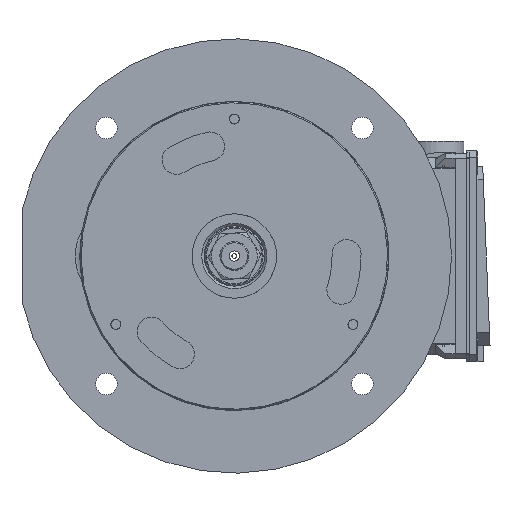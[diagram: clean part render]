
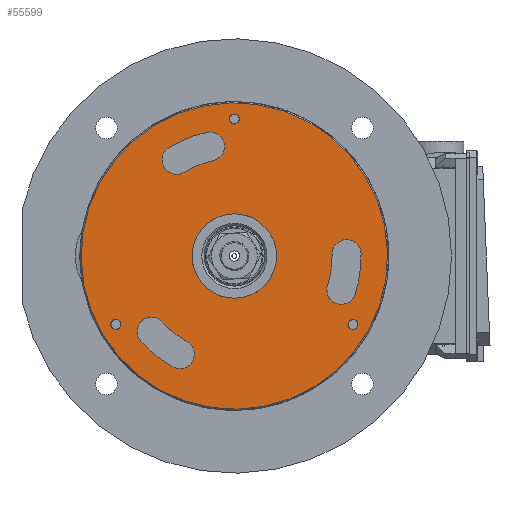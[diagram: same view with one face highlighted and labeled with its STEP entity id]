
A CAD part, front view. The second image highlights one B-rep face of the part: STEP entity #55599.
In plain terms, the highlighted planar face has unit normal (0, -1, 0).
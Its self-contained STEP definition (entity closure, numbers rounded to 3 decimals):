
#2052=PLANE('',#59845);
#3854=FACE_BOUND('',#8932,.T.);
#3855=FACE_BOUND('',#8933,.T.);
#3856=FACE_BOUND('',#8934,.T.);
#3857=FACE_BOUND('',#8935,.T.);
#3858=FACE_BOUND('',#8936,.T.);
#3859=FACE_BOUND('',#8937,.T.);
#3860=FACE_BOUND('',#8938,.T.);
#5712=FACE_OUTER_BOUND('',#8931,.T.);
#8931=EDGE_LOOP('',(#44593));
#8932=EDGE_LOOP('',(#44594,#44595,#44596,#44597));
#8933=EDGE_LOOP('',(#44598,#44599,#44600,#44601));
#8934=EDGE_LOOP('',(#44602,#44603,#44604,#44605));
#8935=EDGE_LOOP('',(#44606));
#8936=EDGE_LOOP('',(#44607));
#8937=EDGE_LOOP('',(#44608));
#8938=EDGE_LOOP('',(#44609));
#11367=CIRCLE('',#59785,5.25);
#11368=CIRCLE('',#59787,0.6);
#11369=CIRCLE('',#59789,4.05);
#11370=CIRCLE('',#59791,0.6);
#11375=CIRCLE('',#59798,5.25);
#11376=CIRCLE('',#59800,0.6);
#11377=CIRCLE('',#59802,4.05);
#11378=CIRCLE('',#59804,0.6);
#11383=CIRCLE('',#59811,5.25);
#11384=CIRCLE('',#59813,0.6);
#11385=CIRCLE('',#59815,4.05);
#11386=CIRCLE('',#59817,0.6);
#11391=CIRCLE('',#59826,1.75);
#11399=CIRCLE('',#59836,0.207);
#11402=CIRCLE('',#59840,0.207);
#11405=CIRCLE('',#59844,0.207);
#11406=CIRCLE('',#59846,6.35);
#25130=VERTEX_POINT('',#91488);
#25131=VERTEX_POINT('',#91489);
#25132=VERTEX_POINT('',#91494);
#25133=VERTEX_POINT('',#91498);
#25138=VERTEX_POINT('',#91513);
#25139=VERTEX_POINT('',#91514);
#25140=VERTEX_POINT('',#91519);
#25141=VERTEX_POINT('',#91523);
#25146=VERTEX_POINT('',#91538);
#25147=VERTEX_POINT('',#91539);
#25148=VERTEX_POINT('',#91544);
#25149=VERTEX_POINT('',#91548);
#25155=VERTEX_POINT('',#91719);
#25162=VERTEX_POINT('',#91737);
#25165=VERTEX_POINT('',#91745);
#25168=VERTEX_POINT('',#91753);
#25169=VERTEX_POINT('',#91757);
#31992=EDGE_CURVE('',#25130,#25131,#11367,.T.);
#31995=EDGE_CURVE('',#25132,#25130,#11368,.T.);
#31997=EDGE_CURVE('',#25133,#25132,#11369,.T.);
#31999=EDGE_CURVE('',#25131,#25133,#11370,.T.);
#32004=EDGE_CURVE('',#25138,#25139,#11375,.T.);
#32007=EDGE_CURVE('',#25140,#25138,#11376,.T.);
#32009=EDGE_CURVE('',#25141,#25140,#11377,.T.);
#32011=EDGE_CURVE('',#25139,#25141,#11378,.T.);
#32016=EDGE_CURVE('',#25146,#25147,#11383,.T.);
#32019=EDGE_CURVE('',#25148,#25146,#11384,.T.);
#32021=EDGE_CURVE('',#25149,#25148,#11385,.T.);
#32023=EDGE_CURVE('',#25147,#25149,#11386,.T.);
#32035=EDGE_CURVE('',#25155,#25155,#11391,.T.);
#32044=EDGE_CURVE('',#25162,#25162,#11399,.T.);
#32048=EDGE_CURVE('',#25165,#25165,#11402,.T.);
#32052=EDGE_CURVE('',#25168,#25168,#11405,.T.);
#32053=EDGE_CURVE('',#25169,#25169,#11406,.T.);
#44593=ORIENTED_EDGE('',*,*,#32053,.F.);
#44594=ORIENTED_EDGE('',*,*,#31999,.T.);
#44595=ORIENTED_EDGE('',*,*,#31997,.T.);
#44596=ORIENTED_EDGE('',*,*,#31995,.T.);
#44597=ORIENTED_EDGE('',*,*,#31992,.T.);
#44598=ORIENTED_EDGE('',*,*,#32011,.T.);
#44599=ORIENTED_EDGE('',*,*,#32009,.T.);
#44600=ORIENTED_EDGE('',*,*,#32007,.T.);
#44601=ORIENTED_EDGE('',*,*,#32004,.T.);
#44602=ORIENTED_EDGE('',*,*,#32023,.T.);
#44603=ORIENTED_EDGE('',*,*,#32021,.T.);
#44604=ORIENTED_EDGE('',*,*,#32019,.T.);
#44605=ORIENTED_EDGE('',*,*,#32016,.T.);
#44606=ORIENTED_EDGE('',*,*,#32035,.T.);
#44607=ORIENTED_EDGE('',*,*,#32044,.T.);
#44608=ORIENTED_EDGE('',*,*,#32048,.T.);
#44609=ORIENTED_EDGE('',*,*,#32052,.T.);
#55599=ADVANCED_FACE('',(#5712,#3854,#3855,#3856,#3857,#3858,#3859,#3860),
#2052,.F.);
#59785=AXIS2_PLACEMENT_3D('',#91490,#70269,#70270);
#59787=AXIS2_PLACEMENT_3D('',#91495,#70275,#70276);
#59789=AXIS2_PLACEMENT_3D('',#91499,#70280,#70281);
#59791=AXIS2_PLACEMENT_3D('',#91502,#70285,#70286);
#59798=AXIS2_PLACEMENT_3D('',#91515,#70299,#70300);
#59800=AXIS2_PLACEMENT_3D('',#91520,#70305,#70306);
#59802=AXIS2_PLACEMENT_3D('',#91524,#70310,#70311);
#59804=AXIS2_PLACEMENT_3D('',#91527,#70315,#70316);
#59811=AXIS2_PLACEMENT_3D('',#91540,#70329,#70330);
#59813=AXIS2_PLACEMENT_3D('',#91545,#70335,#70336);
#59815=AXIS2_PLACEMENT_3D('',#91549,#70340,#70341);
#59817=AXIS2_PLACEMENT_3D('',#91552,#70345,#70346);
#59826=AXIS2_PLACEMENT_3D('',#91721,#70365,#70366);
#59836=AXIS2_PLACEMENT_3D('',#91739,#70386,#70387);
#59840=AXIS2_PLACEMENT_3D('',#91747,#70395,#70396);
#59844=AXIS2_PLACEMENT_3D('',#91755,#70404,#70405);
#59845=AXIS2_PLACEMENT_3D('',#91756,#70406,#70407);
#59846=AXIS2_PLACEMENT_3D('',#91758,#70408,#70409);
#70269=DIRECTION('center_axis',(0.,1.,0.));
#70270=DIRECTION('ref_axis',(0.738,0.,0.675));
#70275=DIRECTION('center_axis',(0.,1.,0.));
#70276=DIRECTION('ref_axis',(0.485,0.,0.875));
#70280=DIRECTION('center_axis',(0.,-1.,0.));
#70281=DIRECTION('ref_axis',(-0.738,0.,-0.675));
#70285=DIRECTION('center_axis',(0.,1.,0.));
#70286=DIRECTION('ref_axis',(-0.738,0.,-0.675));
#70299=DIRECTION('center_axis',(0.,1.,0.));
#70300=DIRECTION('ref_axis',(0.215,0.,-0.977));
#70305=DIRECTION('center_axis',(0.,1.,0.));
#70306=DIRECTION('ref_axis',(0.515,0.,-0.857));
#70310=DIRECTION('center_axis',(0.,-1.,0.));
#70311=DIRECTION('ref_axis',(-0.215,0.,0.977));
#70315=DIRECTION('center_axis',(0.,1.,0.));
#70316=DIRECTION('ref_axis',(-0.215,0.,0.977));
#70329=DIRECTION('center_axis',(0.,1.,0.));
#70330=DIRECTION('ref_axis',(-0.953,0.,0.302));
#70335=DIRECTION('center_axis',(0.,1.,0.));
#70336=DIRECTION('ref_axis',(-1.,0.,-0.018));
#70340=DIRECTION('center_axis',(0.,-1.,0.));
#70341=DIRECTION('ref_axis',(0.953,0.,-0.302));
#70345=DIRECTION('center_axis',(0.,1.,0.));
#70346=DIRECTION('ref_axis',(0.953,0.,-0.302));
#70365=DIRECTION('center_axis',(0.,1.,0.));
#70366=DIRECTION('ref_axis',(0.023,0.,-1.));
#70386=DIRECTION('center_axis',(0.,1.,0.));
#70387=DIRECTION('ref_axis',(-0.023,0.,
1.));
#70395=DIRECTION('center_axis',(0.,1.,0.));
#70396=DIRECTION('ref_axis',(0.877,0.,-0.48));
#70404=DIRECTION('center_axis',(0.,1.,0.));
#70405=DIRECTION('ref_axis',(-0.854,0.,-0.519));
#70406=DIRECTION('center_axis',(0.,1.,0.));
#70407=DIRECTION('ref_axis',(-1.,0.,-0.023));
#70408=DIRECTION('center_axis',(0.,1.,0.));
#70409=DIRECTION('ref_axis',(0.023,0.,-1.));
#91488=CARTESIAN_POINT('',(-2.545,-21.401,-4.592));
#91489=CARTESIAN_POINT('',(-3.874,-21.401,-3.543));
#91490=CARTESIAN_POINT('Origin',(0.,-21.401,
0.));
#91494=CARTESIAN_POINT('',(-1.963,-21.401,-3.542));
#91495=CARTESIAN_POINT('Origin',(-2.254,-21.401,-4.067));
#91498=CARTESIAN_POINT('',(-2.989,-21.401,-2.733));
#91499=CARTESIAN_POINT('Origin',(0.,-21.401,
0.));
#91502=CARTESIAN_POINT('Origin',(-3.432,-21.401,-3.138));
#91513=CARTESIAN_POINT('',(-2.704,-21.401,4.5));
#91514=CARTESIAN_POINT('',(-1.131,-21.401,5.127));
#91515=CARTESIAN_POINT('Origin',(0.,-21.401,
0.));
#91519=CARTESIAN_POINT('',(-2.086,-21.401,3.471));
#91520=CARTESIAN_POINT('Origin',(-2.395,-21.401,3.986));
#91523=CARTESIAN_POINT('',(-0.873,-21.401,3.955));
#91524=CARTESIAN_POINT('Origin',(0.,-21.401,
0.));
#91527=CARTESIAN_POINT('Origin',(-1.002,-21.401,4.541));
#91538=CARTESIAN_POINT('',(5.249,-21.401,0.092));
#91539=CARTESIAN_POINT('',(5.005,-21.401,-1.584));
#91540=CARTESIAN_POINT('Origin',(0.,-21.401,
0.));
#91544=CARTESIAN_POINT('',(4.049,-21.401,0.071));
#91545=CARTESIAN_POINT('Origin',(4.649,-21.401,0.082));
#91548=CARTESIAN_POINT('',(3.861,-21.401,-1.222));
#91549=CARTESIAN_POINT('Origin',(0.,-21.401,
0.));
#91552=CARTESIAN_POINT('Origin',(4.433,-21.401,-1.403));
#91719=CARTESIAN_POINT('',(-0.04,-21.401,1.75));
#91721=CARTESIAN_POINT('Origin',(0.,-21.401,
0.));
#91737=CARTESIAN_POINT('',(-4.91,-21.401,-3.044));
#91739=CARTESIAN_POINT('Origin',(-4.915,-21.401,-2.838));
#91745=CARTESIAN_POINT('',(-0.181,-21.401,5.774));
#91747=CARTESIAN_POINT('Origin',(0.,-21.401,
5.675));
#91753=CARTESIAN_POINT('',(5.091,-21.401,-2.73));
#91755=CARTESIAN_POINT('Origin',(4.915,-21.401,-2.838));
#91756=CARTESIAN_POINT('Origin',(0.,-21.401,
0.));
#91757=CARTESIAN_POINT('',(-0.144,-21.401,6.348));
#91758=CARTESIAN_POINT('Origin',(0.,-21.401,
0.));
